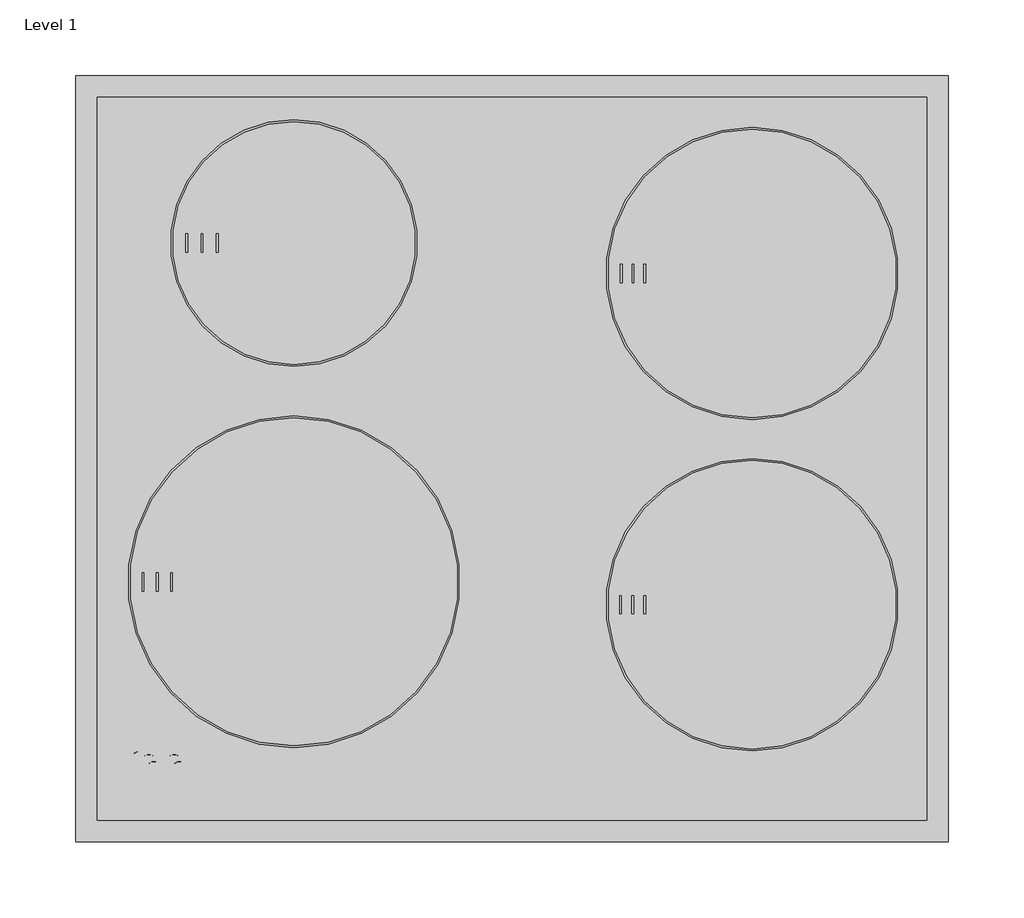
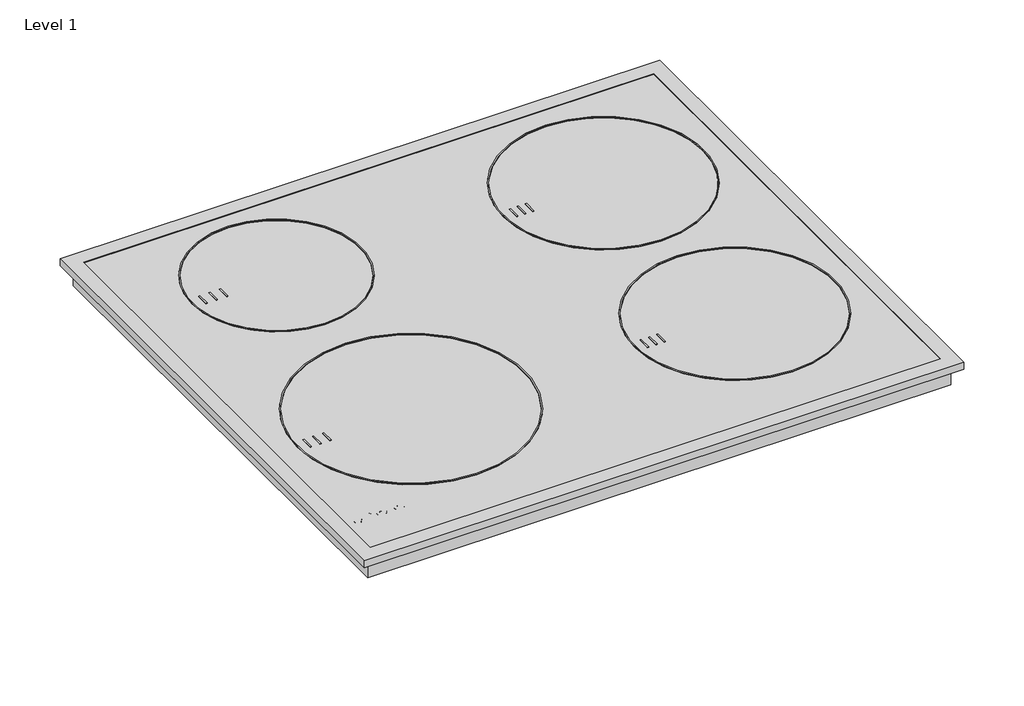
# One storey: 1 proxy.
"""IFC4 building model written with IfcOpenShell, lengths in millimetres."""

from ifc_helpers import new_model, si_unit, origin, place, context, project, spatial, transform, mapped, element, save
from components import specialty_equipment_637ebf5e

model = new_model("IFC4")

# Units and contexts
model_context = context("Model", 3, world=origin())
ifc_project = project(units=[si_unit("LENGTHUNIT", "METRE", prefix="MILLI")], contexts=[model_context])

# Site, building, storey
site = spatial("IfcSite", under=ifc_project)
building = spatial("IfcBuilding", under=site)
storey = spatial("IfcBuildingStorey", under=building, Name="Level 1", Elevation=0.0)

# Proxy
placement = place(None, origin())
specialty_equipment_shape = specialty_equipment_637ebf5e(model_context)
element("IfcBuildingElementProxy", 1, Name="11022840_D_KM7201FR : 26720110_D_11022840_KM7201FR", ObjectType="11022840_D_KM7201FR : 26720110_D_11022840_KM7201FR", at=placement, inside=storey, context=model_context, shape_type="MappedRepresentation", body=[
    mapped(specialty_equipment_shape, transform((0.0, 0.0, 0.0), x_axis=(1.0, 0.0, 0.0), y_axis=(0.0, 1.0, 0.0), z_axis=(0.0, 0.0, 1.0))),
])

save(model, "model.ifc")
